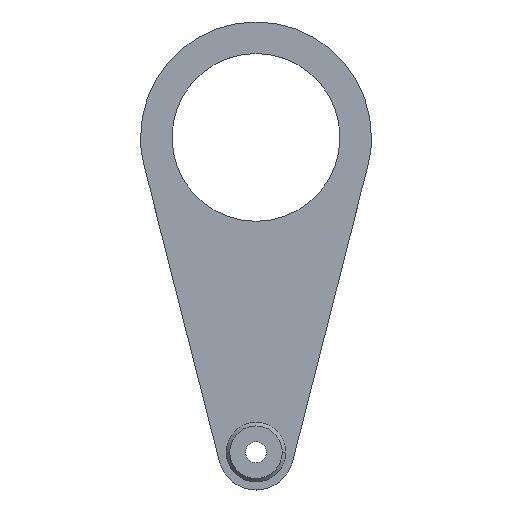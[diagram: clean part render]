
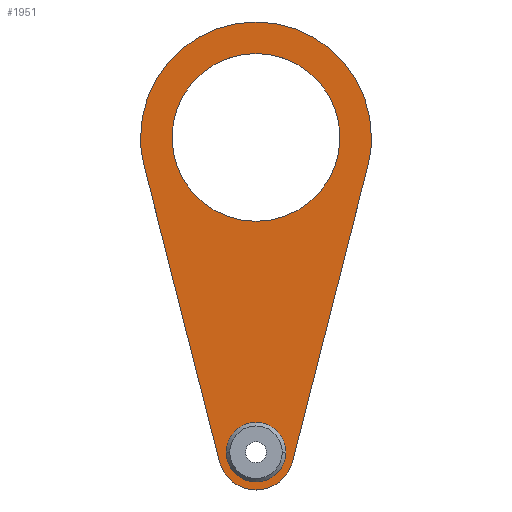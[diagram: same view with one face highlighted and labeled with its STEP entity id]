
A CAD part, top view. The second image highlights one B-rep face of the part: STEP entity #1951.
In plain terms, the highlighted planar face has unit normal (0, 0, 1).
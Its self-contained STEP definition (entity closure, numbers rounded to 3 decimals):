
#76 = AXIS2_PLACEMENT_3D ( 'NONE', #1026, #1025, #1024 ) ;
#77 = AXIS2_PLACEMENT_3D ( 'NONE', #1032, #1031, #1030 ) ;
#79 = AXIS2_PLACEMENT_3D ( 'NONE', #1039, #1037, #1036 ) ;
#80 = AXIS2_PLACEMENT_3D ( 'NONE', #1044, #1043, #1042 ) ;
#96 = AXIS2_PLACEMENT_3D ( 'NONE', #918, #917, #916 ) ;
#127 = EDGE_CURVE ( 'NONE', #306, #307, #504, .T. ) ;
#130 = EDGE_CURVE ( 'NONE', #430, #320, #507, .T. ) ;
#133 = AXIS2_PLACEMENT_3D ( 'NONE', #972, #971, #970 ) ;
#136 = AXIS2_PLACEMENT_3D ( 'NONE', #958, #957, #956 ) ;
#139 = EDGE_CURVE ( 'NONE', #320, #311, #510, .T. ) ;
#140 = EDGE_CURVE ( 'NONE', #299, #319, #1880, .T. ) ;
#147 = EDGE_CURVE ( 'NONE', #319, #430, #1881, .T. ) ;
#148 = EDGE_CURVE ( 'NONE', #310, #309, #1883, .T. ) ;
#171 = EDGE_CURVE ( 'NONE', #307, #306, #1913, .T. ) ;
#176 = EDGE_CURVE ( 'NONE', #311, #300, #1921, .T. ) ;
#190 = EDGE_CURVE ( 'NONE', #300, #299, #1941, .T. ) ;
#193 = EDGE_CURVE ( 'NONE', #309, #310, #1945, .T. ) ;
#222 = AXIS2_PLACEMENT_3D ( 'NONE', #911, #910, #908 ) ;
#264 = FACE_BOUND ( 'NONE', #531, .T. ) ;
#265 = FACE_BOUND ( 'NONE', #524, .T. ) ;
#268 = FACE_OUTER_BOUND ( 'NONE', #530, .T. ) ;
#299 = VERTEX_POINT ( 'NONE', #824 ) ;
#300 = VERTEX_POINT ( 'NONE', #823 ) ;
#306 = VERTEX_POINT ( 'NONE', #817 ) ;
#307 = VERTEX_POINT ( 'NONE', #816 ) ;
#309 = VERTEX_POINT ( 'NONE', #814 ) ;
#310 = VERTEX_POINT ( 'NONE', #813 ) ;
#311 = VERTEX_POINT ( 'NONE', #812 ) ;
#319 = VERTEX_POINT ( 'NONE', #804 ) ;
#320 = VERTEX_POINT ( 'NONE', #803 ) ;
#364 = ORIENTED_EDGE ( 'NONE', *, *, #193, .F. ) ;
#365 = ORIENTED_EDGE ( 'NONE', *, *, #148, .F. ) ;
#366 = ORIENTED_EDGE ( 'NONE', *, *, #147, .F. ) ;
#367 = ORIENTED_EDGE ( 'NONE', *, *, #140, .F. ) ;
#368 = ORIENTED_EDGE ( 'NONE', *, *, #190, .F. ) ;
#369 = ORIENTED_EDGE ( 'NONE', *, *, #176, .F. ) ;
#370 = ORIENTED_EDGE ( 'NONE', *, *, #139, .F. ) ;
#371 = ORIENTED_EDGE ( 'NONE', *, *, #130, .F. ) ;
#372 = ORIENTED_EDGE ( 'NONE', *, *, #127, .F. ) ;
#373 = ORIENTED_EDGE ( 'NONE', *, *, #171, .F. ) ;
#430 = VERTEX_POINT ( 'NONE', #793 ) ;
#504 = CIRCLE ( 'NONE', #80, 14.167 ) ;
#507 = CIRCLE ( 'NONE', #79, 18. ) ;
#510 = LINE ( 'NONE', #1035, #1878 ) ;
#524 = EDGE_LOOP ( 'NONE', ( #372, #373 ) ) ;
#530 = EDGE_LOOP ( 'NONE', ( #366, #367, #368, #369, #370, #371 ) ) ;
#531 = EDGE_LOOP ( 'NONE', ( #364, #365 ) ) ;
#717 = DIRECTION ( 'NONE',  ( -1., 0., 0. ) ) ;
#718 = DIRECTION ( 'NONE',  ( 0., 0., -1. ) ) ;
#719 = CARTESIAN_POINT ( 'NONE',  ( 0., 0., -53. ) ) ;
#725 = PLANE ( 'NONE',  #1789 ) ;
#793 = CARTESIAN_POINT ( 'NONE',  ( 17.444, -154.44, -53. ) ) ;
#803 = CARTESIAN_POINT ( 'NONE',  ( -17.444, -154.44, -53. ) ) ;
#804 = CARTESIAN_POINT ( 'NONE',  ( 53.301, -13.567, -53. ) ) ;
#812 = CARTESIAN_POINT ( 'NONE',  ( -53.301, -13.567, -53. ) ) ;
#813 = CARTESIAN_POINT ( 'NONE',  ( 40., 0., -53. ) ) ;
#814 = CARTESIAN_POINT ( 'NONE',  ( -40., 0., -53. ) ) ;
#816 = CARTESIAN_POINT ( 'NONE',  ( 14.167, -150., -53. ) ) ;
#817 = CARTESIAN_POINT ( 'NONE',  ( -14.167, -150., -53. ) ) ;
#823 = CARTESIAN_POINT ( 'NONE',  ( -55., 0., -53. ) ) ;
#824 = CARTESIAN_POINT ( 'NONE',  ( 55., 0., -53. ) ) ;
#908 = DIRECTION ( 'NONE',  ( -1., 0., 0. ) ) ;
#910 = DIRECTION ( 'NONE',  ( 0., 0., 1. ) ) ;
#911 = CARTESIAN_POINT ( 'NONE',  ( 0., 0., -53. ) ) ;
#916 = DIRECTION ( 'NONE',  ( -1., 0., 0. ) ) ;
#917 = DIRECTION ( 'NONE',  ( 0., 0., -1. ) ) ;
#918 = CARTESIAN_POINT ( 'NONE',  ( 0., 0., -53. ) ) ;
#956 = DIRECTION ( 'NONE',  ( -1., 0., 0. ) ) ;
#957 = DIRECTION ( 'NONE',  ( 0., 0., -1. ) ) ;
#958 = CARTESIAN_POINT ( 'NONE',  ( 0., 0., -53. ) ) ;
#970 = DIRECTION ( 'NONE',  ( -1., 0., 0. ) ) ;
#971 = DIRECTION ( 'NONE',  ( 0., 0., 1. ) ) ;
#972 = CARTESIAN_POINT ( 'NONE',  ( 0., -150., -53. ) ) ;
#1024 = DIRECTION ( 'NONE',  ( -1., 0., 0. ) ) ;
#1025 = DIRECTION ( 'NONE',  ( 0., 0., 1. ) ) ;
#1026 = CARTESIAN_POINT ( 'NONE',  ( 0., 0., -53. ) ) ;
#1028 = DIRECTION ( 'NONE',  ( -0.247, -0.969, 0. ) ) ;
#1029 = CARTESIAN_POINT ( 'NONE',  ( 53.301, -13.567, -53. ) ) ;
#1030 = DIRECTION ( 'NONE',  ( -1., 0., 0. ) ) ;
#1031 = DIRECTION ( 'NONE',  ( 0., 0., -1. ) ) ;
#1032 = CARTESIAN_POINT ( 'NONE',  ( 0., 0., -53. ) ) ;
#1034 = DIRECTION ( 'NONE',  ( -0.247, 0.969, 0. ) ) ;
#1035 = CARTESIAN_POINT ( 'NONE',  ( -17.444, -154.44, -53. ) ) ;
#1036 = DIRECTION ( 'NONE',  ( -1., 0., 0. ) ) ;
#1037 = DIRECTION ( 'NONE',  ( 0., 0., -1. ) ) ;
#1039 = CARTESIAN_POINT ( 'NONE',  ( 0., -150., -53. ) ) ;
#1042 = DIRECTION ( 'NONE',  ( -1., 0., 0. ) ) ;
#1043 = DIRECTION ( 'NONE',  ( 0., 0., 1. ) ) ;
#1044 = CARTESIAN_POINT ( 'NONE',  ( 0., -150., -53. ) ) ;
#1789 = AXIS2_PLACEMENT_3D ( 'NONE', #719, #718, #717 ) ;
#1878 = VECTOR ( 'NONE', #1034, 1000. ) ;
#1880 = CIRCLE ( 'NONE', #77, 55. ) ;
#1881 = LINE ( 'NONE', #1029, #1884 ) ;
#1883 = CIRCLE ( 'NONE', #76, 40. ) ;
#1884 = VECTOR ( 'NONE', #1028, 1000. ) ;
#1913 = CIRCLE ( 'NONE', #133, 14.167 ) ;
#1921 = CIRCLE ( 'NONE', #136, 55. ) ;
#1941 = CIRCLE ( 'NONE', #96, 55. ) ;
#1945 = CIRCLE ( 'NONE', #222, 40. ) ;
#1951 = ADVANCED_FACE ( 'NONE', ( #264, #268, #265 ), #725, .F. ) ;
